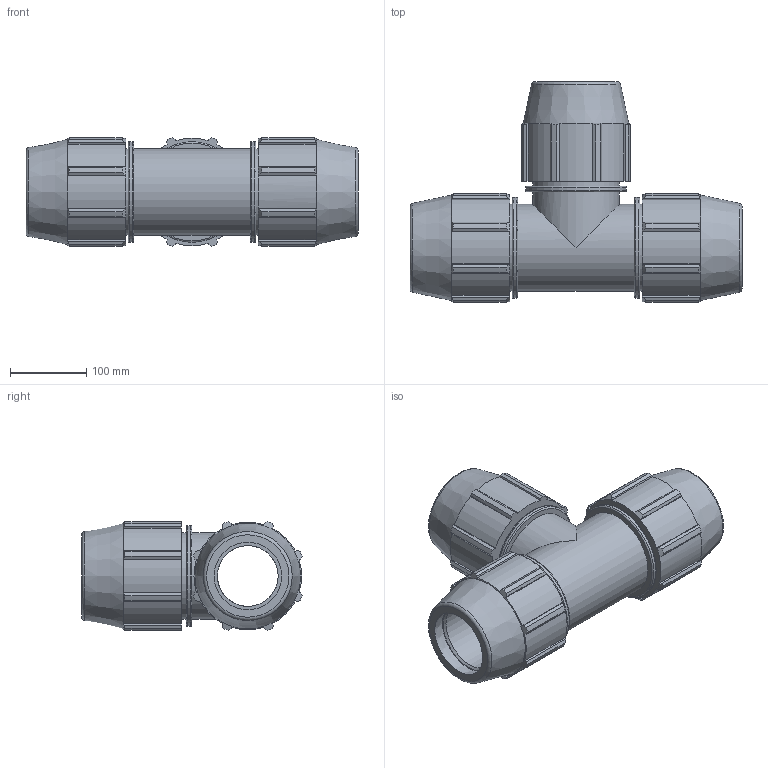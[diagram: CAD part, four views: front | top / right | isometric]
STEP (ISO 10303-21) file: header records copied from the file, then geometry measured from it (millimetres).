
FILE_DESCRIPTION(/* description */ ('PLASSON TEE 3'''' - 3'''' - 3'''''),/* implementation_level */ '2;1');
FILE_NAME(/* name */ 'C:\Dropbox\KIMPROJECTS-Inventor 2019\99-16-3568-Processing Inch\ASTM Compression 2021\0704M0\0704M0300.ipt.stp',/* time_stamp */ '2021-08-26T12:31:31+03:00',/* author */ ('KIM'),/* organization */ (''),/* preprocessor_version */ 'ST-DEVELOPER v17.2',/* originating_system */ 'Autodesk Inventor 2019',/* authorisation */ '');
FILE_SCHEMA (('AUTOMOTIVE_DESIGN { 1 0 10303 214 3 1 1 }'));
Length unit declared in the file: inch
Products named in the file (1): 0704M0300
Bounding box: 435.86 x 289.39 x 142.92 mm (x, y, z)
Volume: 4297359.6 mm3; surface area: 473116.2 mm2
Topology: 1 solids, 1 shells, 212 faces, 627 edges, 431 vertices
Faces by surface type: plane 114, cylinder 61, cone 28, torus 9
Full cylindrical faces by diameter (mm): 79.83 x2, 88.7 x3, 113.919 x5, 132.146 x3
Entity records: 7414 total; most frequent: CARTESIAN_POINT 1431, ORIENTED_EDGE 1254, DIRECTION 1205, EDGE_CURVE 627, AXIS2_PLACEMENT_3D 445, VERTEX_POINT 431, LINE 315, VECTOR 315
